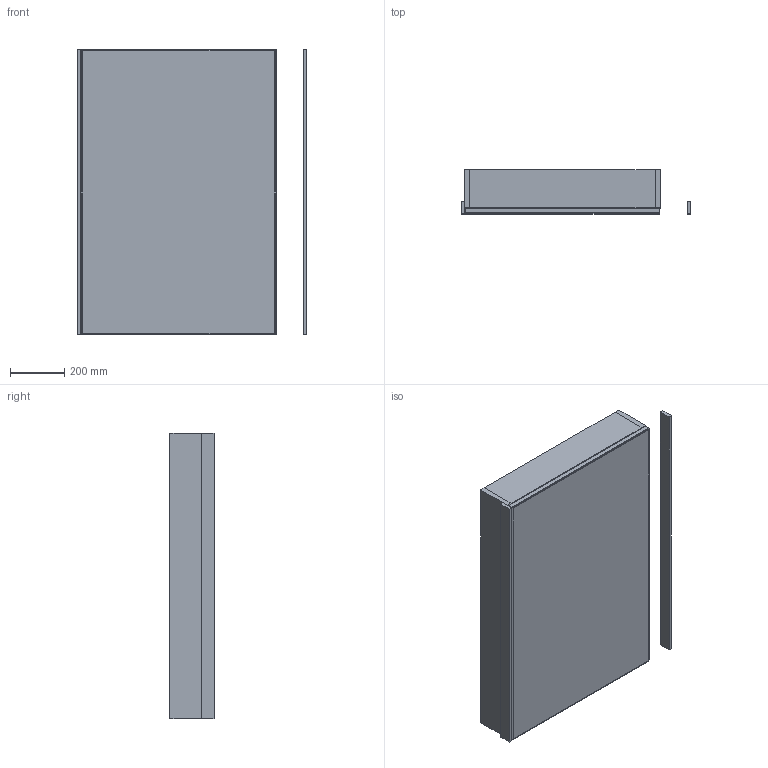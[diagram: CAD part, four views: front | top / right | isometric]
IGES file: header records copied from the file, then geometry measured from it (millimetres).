
Start section: Data from Parasolid IGES Translator 19.0.9, Copyright(c) 2006 Siemens PL M Software. All Rights Reserved.
Global section: file name: noorth-mirror-H 105 D 4,5-16 W 72_9156.igs; native system: By Siemens PLM Incorporated; preprocessor: XPlus GENERIC/IGES 19.0.9; author: Noname; organization: Noname; date: 20200519.113506; units: metre
Bounding box: 843.82 x 162 x 1050 mm (x, y, z)
Volume: 27242439.8 mm3; surface area: 5872900.9 mm2
Topology: 10 solids, 10 shells, 84 faces, 168 edges, 104 vertices
Faces by surface type: plane 84
